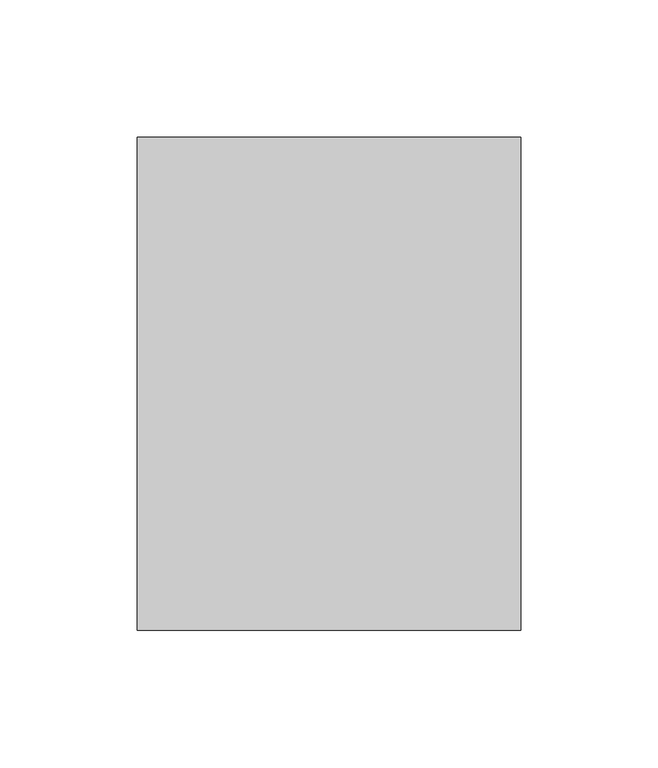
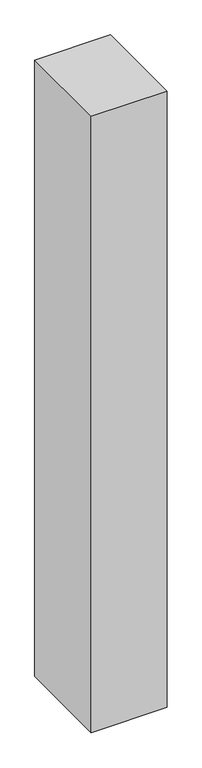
"""IFC4 building model written with IfcOpenShell, lengths in millimetres: column geometry, 混凝土柱-矩形 : 枕木14x18cm."""

import ifcopenshell
import ifcopenshell.guid

model = None  # the IFC model being written
_history = None  # IfcOwnerHistory: only IFC2X3 demands one
_inside = {}  # id of a spatial element -> (the spatial element, [elements in it])
_under = {}  # id of a project, library or spatial element -> (it, [spatial elements below it])
_declared = {}  # id of a project -> (the project, [libraries it declares])
_typed = {}  # id of a type object -> (the type object, [elements of that type])
_made_of = {}  # id of a material, layer set ... -> (it, [elements and type objects made of it])


def new_model(schema):
    """Start an empty IFC model of exactly this schema.

    Asked for "IFC4X3", IfcOpenShell would pick the latest addendum, in which some entities
    have other attributes; the version numbers below select the first issue.
    IFC2X3 requires an IfcOwnerHistory on every rooted entity: one is made here for all.
    """
    global model, _history
    if schema == "IFC4X3":
        model = ifcopenshell.file(schema_version=(4, 3, 0, 0))
    else:
        model = ifcopenshell.file(schema=schema)
    _inside.clear()
    _under.clear()
    _declared.clear()
    _typed.clear()
    _made_of.clear()
    _history = None
    if model.schema == "IFC2X3":
        org = make("IfcOrganization", Name="unknown")
        user = make(
            "IfcPersonAndOrganization",
            ThePerson=make("IfcPerson", FamilyName="unknown"),
            TheOrganization=org,
        )
        app = make(
            "IfcApplication",
            ApplicationDeveloper=org,
            Version="unknown",
            ApplicationFullName="unknown",
            ApplicationIdentifier="unknown",
        )
        _history = make(
            "IfcOwnerHistory",
            OwningUser=user,
            OwningApplication=app,
            ChangeAction="ADDED",
            CreationDate=0,
        )
    return model


def make(cls, **values):
    """One entity of the class cls with the attributes given. An attribute that is None is left unset."""
    return model.create_entity(
        cls, **{name: value for name, value in values.items() if value is not None}
    )


def rooted(cls, **values):
    """An entity with a GlobalId (a new one), such as an element, a storey or a relation."""
    return make(cls, GlobalId=ifcopenshell.guid.new(), OwnerHistory=_history, **values)


def si_unit(unit_type, name, prefix=None):
    """IfcSIUnit, for example si_unit("LENGTHUNIT", "METRE", prefix="MILLI")."""
    return make("IfcSIUnit", UnitType=unit_type, Prefix=prefix, Name=name)


def assignment(units):
    """IfcUnitAssignment: the units of a project."""
    return None if units is None else make("IfcUnitAssignment", Units=units)


def point(xyz):
    """IfcCartesianPoint."""
    return None if xyz is None else make("IfcCartesianPoint", Coordinates=xyz)


def direction(xyz):
    """IfcDirection."""
    return None if xyz is None else make("IfcDirection", DirectionRatios=xyz)


def frame(location, z_axis=None, x_axis=None):
    """IfcAxis2Placement3D, a coordinate frame: its origin and axes. An axis left out is left unset."""
    return make(
        "IfcAxis2Placement3D",
        Location=point(location),
        Axis=direction(z_axis),
        RefDirection=direction(x_axis),
    )


def origin():
    """The frame at (0, 0, 0) with its axes left unset."""
    return frame((0.0, 0.0, 0.0))


def origin_with_axes():
    """The frame at (0, 0, 0) with the z axis (0, 0, 1) and the x axis (1, 0, 0) written out."""
    return frame((0.0, 0.0, 0.0), z_axis=(0.0, 0.0, 1.0), x_axis=(1.0, 0.0, 0.0))


def place(relative_to, where):
    """IfcLocalPlacement: puts the frame where relative to a parent placement (None: the world)."""
    return make(
        "IfcLocalPlacement", PlacementRelTo=relative_to, RelativePlacement=where
    )


def context(
    kind, dimensions, precision=None, world=None, true_north=None, identifier=None
):
    """IfcGeometricRepresentationContext, for example the 3D "Model" context."""
    return make(
        "IfcGeometricRepresentationContext",
        ContextIdentifier=identifier,
        ContextType=kind,
        CoordinateSpaceDimension=dimensions,
        Precision=precision,
        WorldCoordinateSystem=world,
        TrueNorth=true_north,
    )


def project(units=None, contexts=None):
    """IfcProject with its units and contexts."""
    return rooted(
        "IfcProject",
        Name="project",
        RepresentationContexts=contexts,
        UnitsInContext=assignment(units),
    )


def spatial(cls, under=None, at=None, **own):
    """A site, building, storey or space (cls), placed at a placement, below another one or the project."""
    s = rooted(cls, ObjectPlacement=at, **own)
    if under is not None:
        _under.setdefault(under.id(), (under, []))[1].append(s)
    return s


def polyline(points):
    """IfcPolyline through the points."""
    return make("IfcPolyline", Points=[point(p) for p in points])


def outline(outer, holes=None, kind="AREA"):
    """IfcArbitraryClosedProfileDef: a profile drawn as a closed curve; with holes, ...WithVoids."""
    if holes is None:
        return make("IfcArbitraryClosedProfileDef", ProfileType=kind, OuterCurve=outer)
    return make(
        "IfcArbitraryProfileDefWithVoids",
        ProfileType=kind,
        OuterCurve=outer,
        InnerCurves=holes,
    )


def extrude(swept, where, along, depth):
    """IfcExtrudedAreaSolid: the profile swept, set in the frame where, extruded along a direction by depth."""
    return make(
        "IfcExtrudedAreaSolid",
        SweptArea=swept,
        Position=where,
        ExtrudedDirection=direction(along),
        Depth=depth,
    )


def shape(context_of_items, identifier, shape_type, items):
    """IfcShapeRepresentation: the items that make up one representation, for example the "Body"."""
    return make(
        "IfcShapeRepresentation",
        ContextOfItems=context_of_items,
        RepresentationIdentifier=identifier,
        RepresentationType=shape_type,
        Items=items,
    )


def source(mapping_origin, context_of_items, identifier, shape_type, items):
    """IfcRepresentationMap: a shape defined once, which mapped items show again and again."""
    return make(
        "IfcRepresentationMap",
        MappingOrigin=mapping_origin,
        MappedRepresentation=shape(context_of_items, identifier, shape_type, items),
    )


def transform(
    local_origin,
    x_axis=None,
    y_axis=None,
    z_axis=None,
    scale=None,
    scale2=None,
    scale3=None,
    uniform=True,
):
    """IfcCartesianTransformationOperator3D, or its non-uniform kind. x_axis, y_axis, z_axis: its Axis1, 2, 3."""
    if uniform:
        return make(
            "IfcCartesianTransformationOperator3D",
            Axis1=direction(x_axis),
            Axis2=direction(y_axis),
            LocalOrigin=point(local_origin),
            Scale=scale,
            Axis3=direction(z_axis),
        )
    return make(
        "IfcCartesianTransformationOperator3DnonUniform",
        Axis1=direction(x_axis),
        Axis2=direction(y_axis),
        LocalOrigin=point(local_origin),
        Scale=scale,
        Axis3=direction(z_axis),
        Scale2=scale2,
        Scale3=scale3,
    )


def mapped(mapping_source, mapping_target):
    """IfcMappedItem: shows the shape of a source again, moved by a transform."""
    return make(
        "IfcMappedItem", MappingSource=mapping_source, MappingTarget=mapping_target
    )


def made_of(thing, what):
    """Note that an element or type object is made of a material, layer set ...; save() writes the relation."""
    if what is not None:
        _made_of.setdefault(what.id(), (what, []))[1].append(thing)
    return thing


def element(
    cls,
    number,
    at=None,
    inside=None,
    cuts=None,
    type_object=None,
    material=None,
    context=None,
    identifier="Body",
    shape_type=None,
    held_by="IfcProductDefinitionShape",
    body=None,
    shapes=None,
    **own,
):
    """One element of the class cls, such as IfcWall. Its Tag is "e" and its number.

    at: its placement. inside: the storey or other place that contains it. cuts: it is an
    opening in that element (IfcRelVoidsElement). A single representation is given by context,
    identifier, shape_type and body (its items); several are given by shapes. held_by: the class
    of the entity that holds the representations. save() writes the other relations.
    """
    e = rooted(cls, Tag="e%d" % number, ObjectPlacement=at, **own)
    if body is not None:
        shapes = [shape(context, identifier, shape_type, body)]
    if shapes is not None:
        e.Representation = make(held_by, Representations=shapes)
    if inside is not None:
        _inside.setdefault(inside.id(), (inside, []))[1].append(e)
    if cuts is not None:
        rooted(
            "IfcRelVoidsElement", RelatingBuildingElement=cuts, RelatedOpeningElement=e
        )
    if type_object is not None:
        _typed.setdefault(type_object.id(), (type_object, []))[1].append(e)
    return made_of(e, material)


def aggregate(whole, parts):
    """IfcRelAggregates: a whole, such as a stair, and the parts it consists of."""
    return rooted("IfcRelAggregates", RelatingObject=whole, RelatedObjects=parts)


def save(model, path):
    """Write the relations noted so far, then the file.

    IfcRelAggregates (storeys below a building ...), IfcRelContainedInSpatialStructure (elements
    in a storey), IfcRelDefinesByType, IfcRelAssociatesMaterial and IfcRelDeclares: one each for
    every whole, place, type object, material and project.
    """
    for whole, parts in _under.values():
        aggregate(whole, parts)
    for where, things in _inside.values():
        rooted(
            "IfcRelContainedInSpatialStructure",
            RelatedElements=things,
            RelatingStructure=where,
        )
    for kind, things in _typed.values():
        rooted("IfcRelDefinesByType", RelatedObjects=things, RelatingType=kind)
    for what, things in _made_of.values():
        rooted("IfcRelAssociatesMaterial", RelatedObjects=things, RelatingMaterial=what)
    for by, libraries in _declared.values():
        rooted("IfcRelDeclares", RelatingContext=by, RelatedDefinitions=libraries)
    model.write(path)


def column_0fe4bcd3(model_context):
    return source(origin(), model_context, "Body", "SweptSolid", [
        extrude(outline(polyline([(70.0, 90.0), (70.0, -90.0), (-70.0, -90.0), (-70.0, 90.0), (70.0, 90.0)])), origin_with_axes(), (0.0, 0.0, 1.0), 1200.0),
    ])


if __name__ == "__main__":
    model = new_model("IFC4")
    model_context = context("Model", 3, world=origin())
    ifc_project = project(units=[si_unit("LENGTHUNIT", "METRE", prefix="MILLI")], contexts=[model_context])
    site = spatial("IfcSite", under=ifc_project)
    building = spatial("IfcBuilding", under=site)
    placement = place(None, origin())
    column_shape = column_0fe4bcd3(model_context)
    element("IfcColumn", 1, ObjectType="混凝土柱-矩形 : 枕木14x18cm", at=placement, inside=building, context=model_context, shape_type="MappedRepresentation", body=[
        mapped(column_shape, transform((0.0, 0.0, 0.0), x_axis=(1.0, 0.0, 0.0), y_axis=(0.0, 1.0, 0.0), z_axis=(0.0, 0.0, 1.0))),
    ])
    save(model, "model.ifc")
